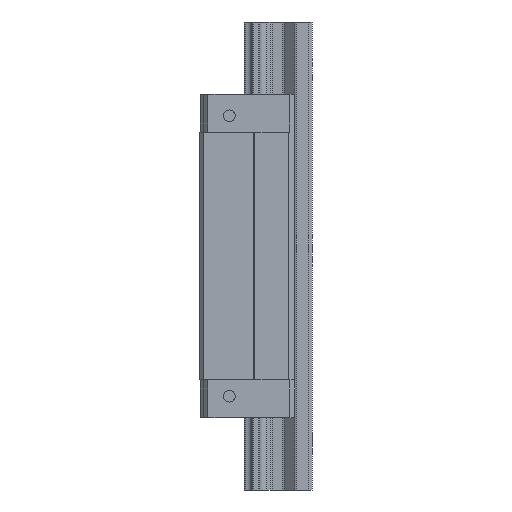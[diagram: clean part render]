
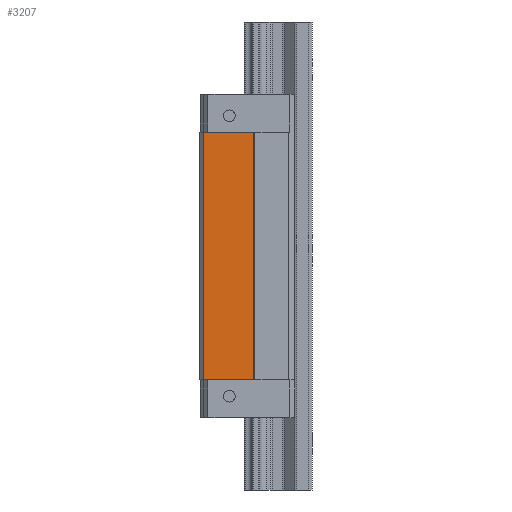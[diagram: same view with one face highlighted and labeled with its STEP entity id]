
A CAD part, left-side view. The second image highlights one B-rep face of the part: STEP entity #3207.
In plain terms, the highlighted planar face has unit normal (-1, 0, 0).
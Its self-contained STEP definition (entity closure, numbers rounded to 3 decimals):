
#705=DIRECTION('',(0.,1.,0.));
#706=VECTOR('',#705,21.5);
#707=CARTESIAN_POINT('',(-35.,-4.,52.9));
#708=LINE('',#707,#706);
#1081=DIRECTION('',(0.,0.,1.));
#1082=VECTOR('',#1081,105.8);
#1083=CARTESIAN_POINT('',(-35.,-4.,-52.9));
#1084=LINE('',#1083,#1082);
#1085=DIRECTION('',(0.,1.,0.));
#1086=VECTOR('',#1085,21.5);
#1087=CARTESIAN_POINT('',(-35.,-4.,-52.9));
#1088=LINE('',#1087,#1086);
#1089=DIRECTION('',(0.,0.,1.));
#1090=VECTOR('',#1089,105.8);
#1091=CARTESIAN_POINT('',(-35.,17.5,-52.9));
#1092=LINE('',#1091,#1090);
#1321=CARTESIAN_POINT('',(-35.,-4.,-52.9));
#1322=CARTESIAN_POINT('',(-35.,17.5,-52.9));
#1323=VERTEX_POINT('',#1321);
#1324=VERTEX_POINT('',#1322);
#1357=CARTESIAN_POINT('',(-35.,-4.,52.9));
#1358=CARTESIAN_POINT('',(-35.,17.5,52.9));
#1359=VERTEX_POINT('',#1357);
#1360=VERTEX_POINT('',#1358);
#3195=CARTESIAN_POINT('',(-35.,24.5,-52.9));
#3196=DIRECTION('',(-1.,0.,0.));
#3197=DIRECTION('',(0.,-1.,0.));
#3198=AXIS2_PLACEMENT_3D('',#3195,#3196,#3197);
#3199=PLANE('',#3198);
#3200=ORIENTED_EDGE('',*,*,#2740,.F.);
#3201=ORIENTED_EDGE('',*,*,#3189,.F.);
#3202=ORIENTED_EDGE('',*,*,#1800,.T.);
#3204=ORIENTED_EDGE('',*,*,#3203,.T.);
#3205=EDGE_LOOP('',(#3200,#3201,#3202,#3204));
#3206=FACE_OUTER_BOUND('',#3205,.F.);
#3207=ADVANCED_FACE('',(#3206),#3199,.T.);
#1800=EDGE_CURVE('',#1323,#1324,#1088,.T.);
#2740=EDGE_CURVE('',#1359,#1360,#708,.T.);
#3189=EDGE_CURVE('',#1323,#1359,#1084,.T.);
#3203=EDGE_CURVE('',#1324,#1360,#1092,.T.);
